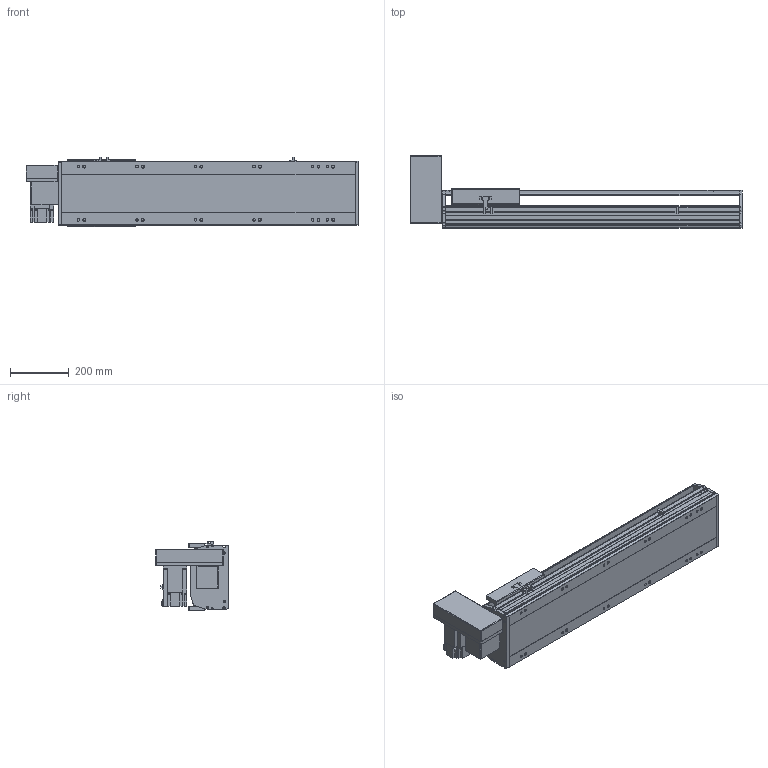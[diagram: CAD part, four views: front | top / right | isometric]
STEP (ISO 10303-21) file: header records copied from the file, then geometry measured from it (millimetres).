
FILE_DESCRIPTION(/* description */ ('STEP AP214'),/* implementation_level */ '2;1');
FILE_NAME(/* name */ 'PBS220-P40-S650-RU-T75-C1-N(0)',/* time_stamp */ '2022-06-13T02:50:30+02:00',/* author */ ('License CC BY-ND 4.0'),/* organization */ ('CADENAS'),/* preprocessor_version */ 'ST-DEVELOPER v18.102',/* originating_system */ 'PARTsolutions',/* authorisation */ ' ');
FILE_SCHEMA (('AUTOMOTIVE_DESIGN {1 0 10303 214 3 1 1}'));
Length unit declared in the file: millimetre
Products named in the file (7): PBS220-P40-S650-RU-T75-C1-N(0); PBS220_sensor; PBS220_plant; PBS220_sliser; T75-p1; PBS220T-RU_motors; PBS220-S650()_body
Assembly tree (8 placements, depth 2):
  PBS220-P40-S650-RU-T75-C1-N(0)
    PBS220_sensor  x3
    PBS220_plant
    PBS220_sliser
    T75-p1
    PBS220T-RU_motors
    PBS220-S650()_body
Bounding box: 1134 x 247 x 238.5 mm (x, y, z)
Volume: 16738907 mm3; surface area: 1700720.9 mm2
Topology: 8 solids, 8 shells, 890 faces, 2340 edges, 1522 vertices
Faces by surface type: plane 590, cylinder 264, cone 36
Full cylindrical faces by diameter (mm): 2.013 x4, 4.5 x14, 4.917 x4, 6 x7, 6.647 x8, 8 x10, 8.376 x12, 8.5 x12, 10 x6, 14 x12, 38 x2, 40 x1, 70 x1
Entity records: 25005 total; most frequent: CARTESIAN_POINT 4360, DIRECTION 4347, ORIENTED_EDGE 4034, EDGE_CURVE 2017, AXIS2_PLACEMENT_3D 1503, VERTEX_POINT 1384, LINE 1341, VECTOR 1341
